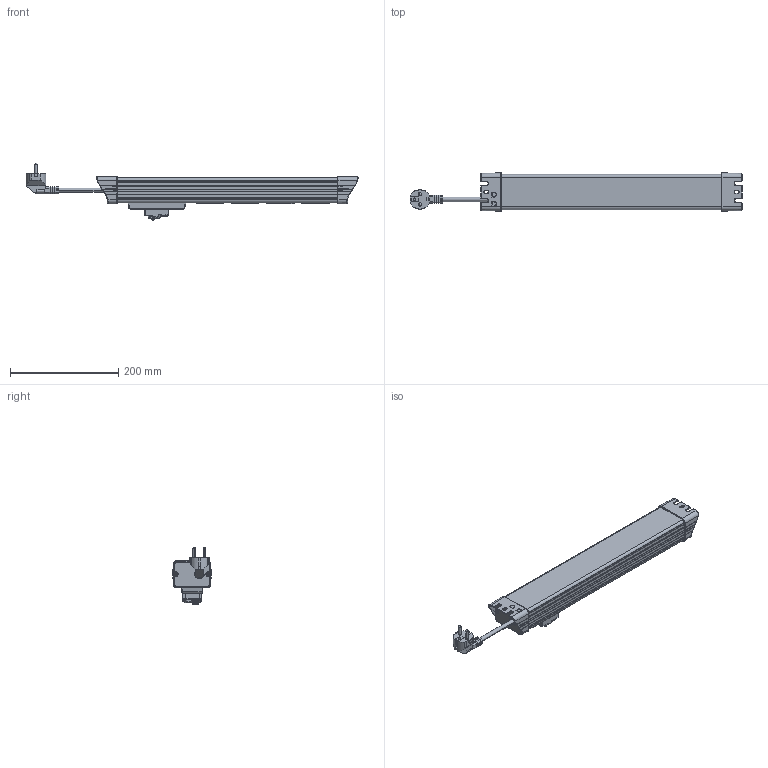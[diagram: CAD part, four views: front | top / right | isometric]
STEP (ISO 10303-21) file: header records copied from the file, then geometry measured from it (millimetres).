
FILE_DESCRIPTION(('Creo Elements/Direct Modeling STEP Export'),'2;1');
FILE_NAME('228120012.stp','2024-10-10T13:43:52',(''),(''),'Creo Elements/Direct Modeling STEP processor for AP214 (Solid Model)','Creo Elements/Direct Modeling 20.5 09-Apr-2022 (C) Parametric Technology GmbH','');
FILE_SCHEMA(('AUTOMOTIVE_DESIGN { 1 0 10303 214 1 1 1 1 }'));
Products named in the file (2): 228120012  Kundenstep
Assembly tree (1 placements, depth 2):
  228120012  Kundenstep
    228120012  Kundenstep
Bounding box: 613.33 x 70.97 x 106.28 mm (x, y, z)
Volume: 1296093.5 mm3; surface area: 207818.7 mm2
Topology: 1 solids, 7 shells, 7751 faces, 22347 edges, 14547 vertices
Faces by surface type: plane 5242, cylinder 1268, bspline 459, cone 328, torus 297, extrusion 108, sphere 49
Entity records: 330666 total; most frequent: CARTESIAN_POINT 132063, ORIENTED_EDGE 44524, DIRECTION 34995, EDGE_CURVE 22262, VECTOR 15369, LINE 15261, VERTEX_POINT 14539, AXIS2_PLACEMENT_3D 9813
